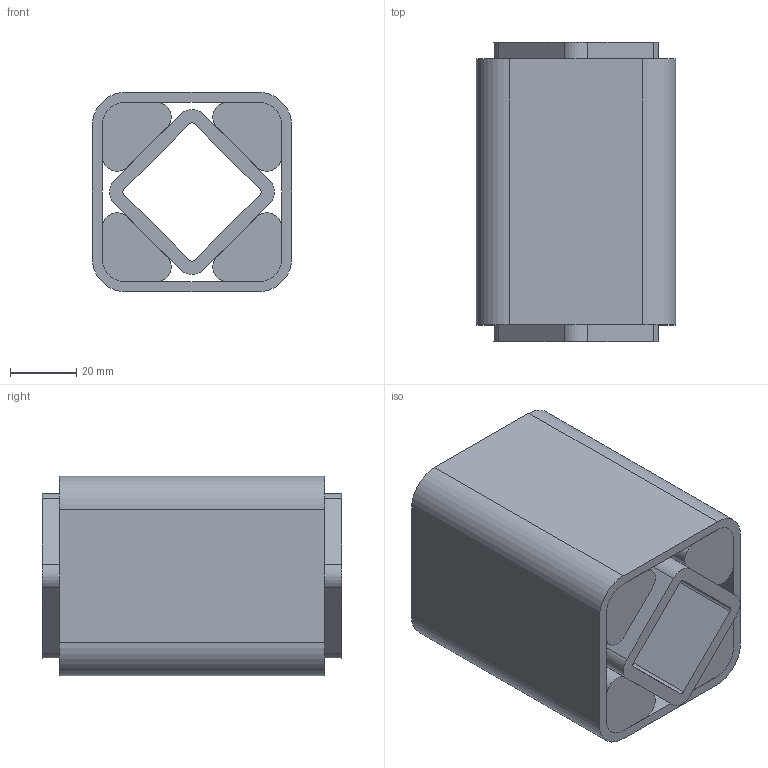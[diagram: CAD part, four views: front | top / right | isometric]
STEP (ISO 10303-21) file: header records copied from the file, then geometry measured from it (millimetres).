
FILE_DESCRIPTION((''),'2;1');
FILE_NAME('\\rostaofc\data\uw\save\daten_f\Normprogramm 3D\Gummifederelemente\DR-S38x80_01021014.stp','2004-09-28T15:07:30',('uw'),(''),'Autodesk Inventor 8','Autodesk Inventor 8','');
FILE_SCHEMA(('AUTOMOTIVE_DESIGN { 1 0 10303 214 1 1 1 1 }'));
Length unit declared in the file: millimetre
Products named in the file (4): ROSTA-Gummifederelement DR-S38x80 (Normelement); 4_4_3729-005; 4_4_3729-006; 4_4_3729-007
Assembly tree (6 placements, depth 2):
  ROSTA-Gummifederelement DR-S38x80 (Normelement)
    4_4_3729-005
    4_4_3729-006
    4_4_3729-007  x4
Bounding box: 60 x 90 x 60 mm (x, y, z)
Volume: 196703.9 mm3; surface area: 84044.1 mm2
Topology: 6 solids, 6 shells, 68 faces, 168 edges, 112 vertices
Faces by surface type: plane 40, cylinder 28
Entity records: 1491 total; most frequent: DIRECTION 260, CARTESIAN_POINT 244, ORIENTED_EDGE 228, EDGE_CURVE 114, AXIS2_PLACEMENT_3D 92, VERTEX_POINT 76, VECTOR 76, LINE 76
